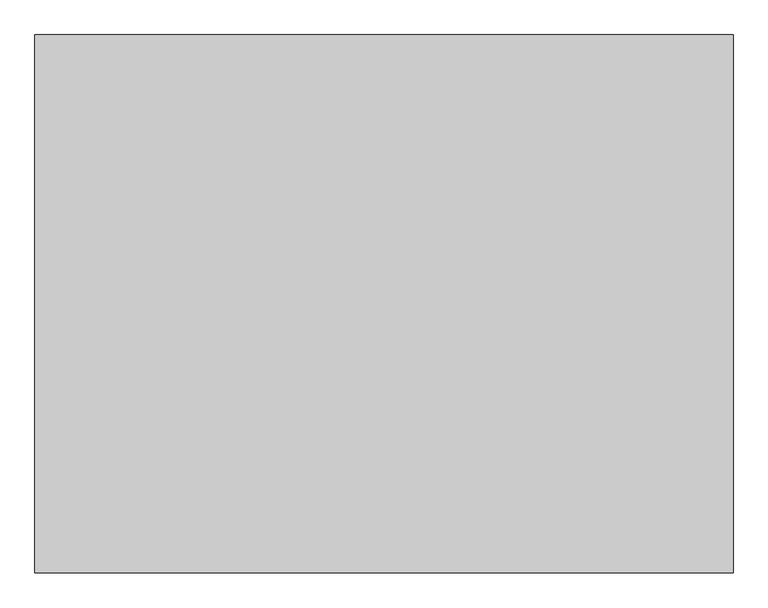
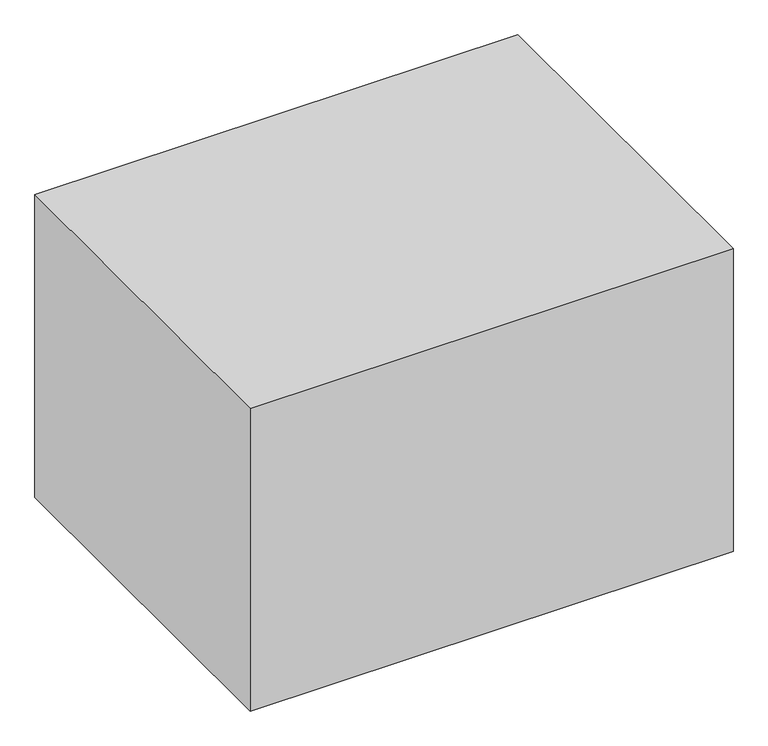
"""IFC4 building model written with IfcOpenShell, lengths in millimetres: proxy geometry, サービススペース : サービススペース."""

from ifc_helpers import new_model, si_unit, frame, origin, place, context, project, spatial, polyline, outline, extrude, source, transform, mapped, element, save


def specialty_equipment_5ca071b2(model_context):
    return source(origin(), model_context, "Body", "SweptSolid", [
        extrude(outline(polyline([(2700.0, 2082.5), (2700.0, -2082.5), (-2700.0, -2082.5), (-2700.0, 2082.5), (2700.0, 2082.5)])), frame((0.0, 0.0, -1790.0), z_axis=(0.0, 0.0, 1.0), x_axis=(1.0, 0.0, 0.0)), (0.0, 0.0, 1.0), 3580.0),
    ])


if __name__ == "__main__":
    model = new_model("IFC4")
    model_context = context("Model", 3, world=origin())
    ifc_project = project(units=[si_unit("LENGTHUNIT", "METRE", prefix="MILLI")], contexts=[model_context])
    site = spatial("IfcSite", under=ifc_project)
    building = spatial("IfcBuilding", under=site)
    placement = place(None, origin())
    specialty_equipment_shape = specialty_equipment_5ca071b2(model_context)
    element("IfcBuildingElementProxy", 1, Name="サービススペース : サービススペース", ObjectType="サービススペース : サービススペース", at=placement, inside=building, context=model_context, shape_type="MappedRepresentation", body=[
        mapped(specialty_equipment_shape, transform((0.0, 0.0, 0.0), x_axis=(1.0, 0.0, 0.0), y_axis=(0.0, 1.0, 0.0), z_axis=(0.0, 0.0, 1.0))),
    ])
    save(model, "model.ifc")
